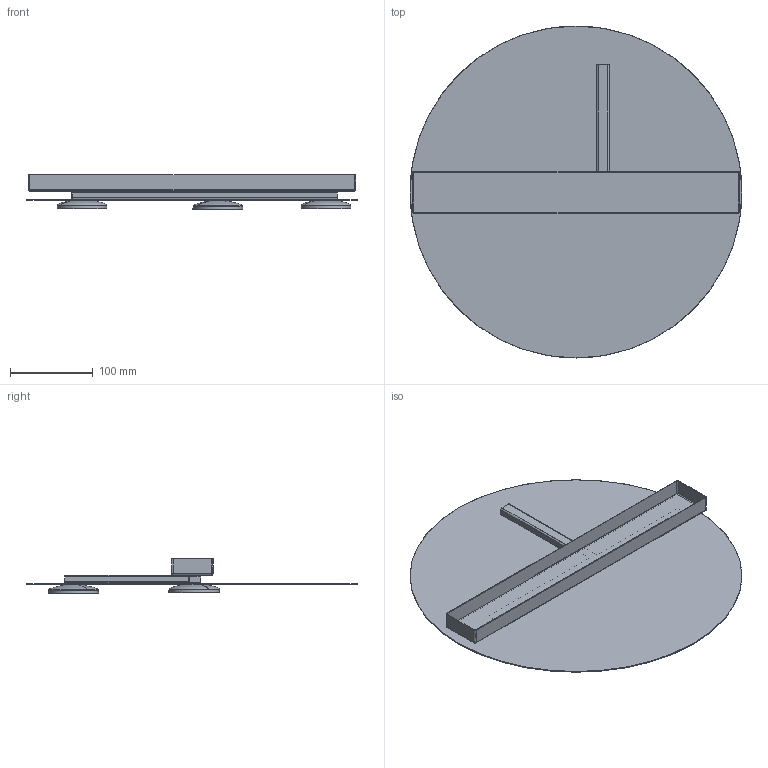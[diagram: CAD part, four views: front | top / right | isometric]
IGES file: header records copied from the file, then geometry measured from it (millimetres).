
Global section: file name: C:\Marek\TuXka\Liczy siX sXowo\_Modelowanie SIGMA\ARGON\paczka\Argon 3 koXo\ARGON 3 KOXO.igs; native system: HarmonyWare Translators; preprocessor: HarmonyWare IGES v1.7.11; date: 20220105.085111; units: centimetre
Bounding box: 400 x 400 x 41.86 mm (x, y, z)
Surface area: 389364 mm2 (no closed solid volume)
Topology: 0 solids, 0 shells, 90 faces, 1109 edges, 1045 vertices
Faces by surface type: bspline 90
